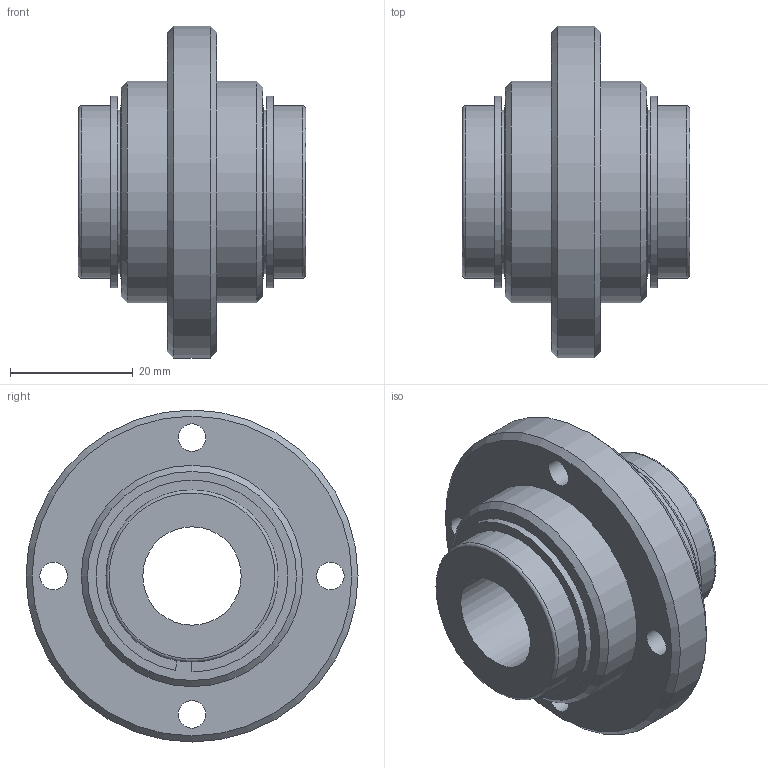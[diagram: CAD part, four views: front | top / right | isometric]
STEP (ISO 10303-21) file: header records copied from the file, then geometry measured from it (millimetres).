
FILE_DESCRIPTION(('STEP AP203'),'1');
FILE_NAME('//192.168.1.1/share/s-4 技術開発/s-4-4_CAD/s-4-4-3_見直し済み/008修正済み/PNCD/PNCD_TOP/PNCD-16VUU.step','2022-02-07T00:28:34',(' '),(' '),'Spatial InterOp 3D',' ',' ');
FILE_SCHEMA(('CONFIG_CONTROL_DESIGN'));
Length unit declared in the file: millimetre
Products named in the file (4): 1; 2; 3; 4
Bounding box: 37 x 54 x 54 mm (x, y, z)
Volume: 34263.4 mm3; surface area: 15792.8 mm2
Topology: 4 solids, 4 shells, 42 faces, 83 edges, 55 vertices
Faces by surface type: cylinder 18, plane 18, cone 4, torus 2
Full cylindrical faces by diameter (mm): 4.5 x4, 16 x1, 26.6 x2, 28 x4, 36 x2, 54 x1
Entity records: 1156 total; most frequent: DIRECTION 192, CARTESIAN_POINT 154, ORIENTED_EDGE 116, AXIS2_PLACEMENT_3D 88, EDGE_LOOP 80, FACE_OUTER_BOUND 58, EDGE_CURVE 58, VERTEX_POINT 50
